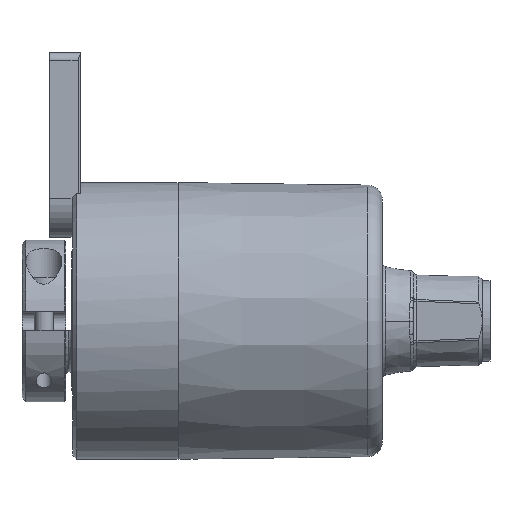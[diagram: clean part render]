
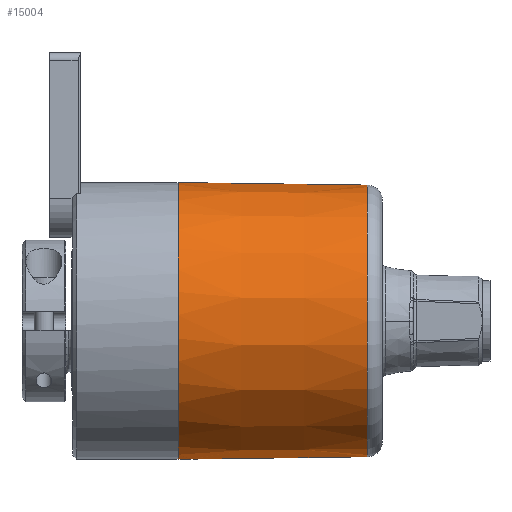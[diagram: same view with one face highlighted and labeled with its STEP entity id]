
A CAD part, front view. The second image highlights one B-rep face of the part: STEP entity #15004.
In plain terms, the highlighted conical face has half-angle 0.75 degrees and reference radius 18 mm.
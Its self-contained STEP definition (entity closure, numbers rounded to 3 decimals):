
#14418 = VERTEX_POINT ( 'NONE', #22575 ) ;
#14421 = VERTEX_POINT ( 'NONE', #22569 ) ;
#14727 = EDGE_CURVE ( 'NONE', #14418, #14889, #23165, .T. ) ;
#14813 = VERTEX_POINT ( 'NONE', #23261 ) ;
#14815 = EDGE_CURVE ( 'NONE', #14421, #14813, #23260, .T. ) ;
#14889 = VERTEX_POINT ( 'NONE', #23594 ) ;
#15004 = ADVANCED_FACE ( 'NONE', ( #23730 ), #23794, .T. ) ;
#15005 = EDGE_LOOP ( 'NONE', ( #15166, #15165, #15168, #15164, #15172, #15169, #15160, #15159 ) ) ;
#15154 = EDGE_CURVE ( 'NONE', #15171, #15156, #24099, .T. ) ;
#15156 = VERTEX_POINT ( 'NONE', #24101 ) ;
#15159 = ORIENTED_EDGE ( 'NONE', *, *, #15161, .T. ) ;
#15160 = ORIENTED_EDGE ( 'NONE', *, *, #15154, .T. ) ;
#15161 = EDGE_CURVE ( 'NONE', #15156, #14889, #24183, .T. ) ;
#15162 = EDGE_CURVE ( 'NONE', #14813, #15163, #24184, .T. ) ;
#15163 = VERTEX_POINT ( 'NONE', #24178 ) ;
#15164 = ORIENTED_EDGE ( 'NONE', *, *, #15162, .T. ) ;
#15165 = ORIENTED_EDGE ( 'NONE', *, *, #15167, .T. ) ;
#15166 = ORIENTED_EDGE ( 'NONE', *, *, #14727, .F. ) ;
#15167 = EDGE_CURVE ( 'NONE', #14418, #14421, #24206, .T. ) ;
#15168 = ORIENTED_EDGE ( 'NONE', *, *, #14815, .T. ) ;
#15169 = ORIENTED_EDGE ( 'NONE', *, *, #15170, .T. ) ;
#15170 = EDGE_CURVE ( 'NONE', #15178, #15171, #24201, .T. ) ;
#15171 = VERTEX_POINT ( 'NONE', #24200 ) ;
#15172 = ORIENTED_EDGE ( 'NONE', *, *, #15173, .T. ) ;
#15173 = EDGE_CURVE ( 'NONE', #15163, #15178, #24195, .T. ) ;
#15178 = VERTEX_POINT ( 'NONE', #24128 ) ;
#22569 = CARTESIAN_POINT ( 'NONE',  ( 38.326, -0.073, 17.677 ) ) ;
#22575 = CARTESIAN_POINT ( 'NONE',  ( 38.326, 0.073, -17.677 ) ) ;
#23162 = DIRECTION ( 'NONE',  ( -1., 0., -0.013 ) ) ;
#23163 = VECTOR ( 'NONE', #23162, 1000. ) ;
#23164 = CARTESIAN_POINT ( 'NONE',  ( 13.7, 0.074, -18. ) ) ;
#23165 = LINE ( 'NONE', #23164, #23163 ) ;
#23257 = DIRECTION ( 'NONE',  ( -1., 0., 0.013 ) ) ;
#23258 = VECTOR ( 'NONE', #23257, 1000. ) ;
#23259 = CARTESIAN_POINT ( 'NONE',  ( 13.7, -0.074, 18. ) ) ;
#23260 = LINE ( 'NONE', #23259, #23258 ) ;
#23261 = CARTESIAN_POINT ( 'NONE',  ( 13.7, -0.074, 18. ) ) ;
#23594 = CARTESIAN_POINT ( 'NONE',  ( 15.85, 0.074, -17.972 ) ) ;
#23730 = FACE_OUTER_BOUND ( 'NONE', #15005, .T. ) ;
#23762 = DIRECTION ( 'NONE',  ( 0., -0.004, 1. ) ) ;
#23763 = DIRECTION ( 'NONE',  ( -1., 0., 0. ) ) ;
#23792 = CARTESIAN_POINT ( 'NONE',  ( 13.7, 0., 0. ) ) ;
#23793 = AXIS2_PLACEMENT_3D ( 'NONE', #23792, #23763, #23762 ) ;
#23794 = CONICAL_SURFACE ( 'NONE', #23793, 18., 0.013 ) ;
#24099 =( BOUNDED_CURVE ( )  B_SPLINE_CURVE ( 3, ( #24193, #24192, #24191, #24190 ),
 .UNSPECIFIED., .F., .T. ) 
 B_SPLINE_CURVE_WITH_KNOTS ( ( 4, 4 ),
 ( 1.661, 1.663 ),
 .UNSPECIFIED. ) 
 CURVE ( )  GEOMETRIC_REPRESENTATION_ITEM ( )  RATIONAL_B_SPLINE_CURVE ( ( 1., 1., 1., 1. ) ) 
 REPRESENTATION_ITEM ( '' )  );
#24101 = CARTESIAN_POINT ( 'NONE',  ( 14.892, -0.972, -17.958 ) ) ;
#24128 = CARTESIAN_POINT ( 'NONE',  ( 14.171, -1.106, -17.96 ) ) ;
#24135 = CARTESIAN_POINT ( 'NONE',  ( 14.171, -1.106, -17.96 ) ) ;
#24136 = CARTESIAN_POINT ( 'NONE',  ( 14.014, -1.263, -17.952 ) ) ;
#24137 = CARTESIAN_POINT ( 'NONE',  ( 13.857, -1.42, -17.943 ) ) ;
#24138 = CARTESIAN_POINT ( 'NONE',  ( 13.7, -1.577, -17.931 ) ) ;
#24168 = CARTESIAN_POINT ( 'NONE',  ( 15.85, 0.074, -17.972 ) ) ;
#24169 = CARTESIAN_POINT ( 'NONE',  ( 15.85, -0.055, -17.972 ) ) ;
#24170 = CARTESIAN_POINT ( 'NONE',  ( 15.826, -0.186, -17.972 ) ) ;
#24171 = CARTESIAN_POINT ( 'NONE',  ( 15.732, -0.427, -17.969 ) ) ;
#24172 = CARTESIAN_POINT ( 'NONE',  ( 15.662, -0.54, -17.966 ) ) ;
#24173 = CARTESIAN_POINT ( 'NONE',  ( 15.487, -0.731, -17.962 ) ) ;
#24174 = CARTESIAN_POINT ( 'NONE',  ( 15.382, -0.81, -17.96 ) ) ;
#24175 = CARTESIAN_POINT ( 'NONE',  ( 15.148, -0.926, -17.957 ) ) ;
#24176 = CARTESIAN_POINT ( 'NONE',  ( 15.022, -0.961, -17.957 ) ) ;
#24177 = CARTESIAN_POINT ( 'NONE',  ( 14.892, -0.972, -17.958 ) ) ;
#24178 = CARTESIAN_POINT ( 'NONE',  ( 13.7, -1.577, -17.931 ) ) ;
#24179 = DIRECTION ( 'NONE',  ( 0., 0.004, -1. ) ) ;
#24180 = DIRECTION ( 'NONE',  ( 1., 0., 0. ) ) ;
#24181 = CARTESIAN_POINT ( 'NONE',  ( 13.7, 0., 0. ) ) ;
#24182 = AXIS2_PLACEMENT_3D ( 'NONE', #24181, #24180, #24179 ) ;
#24183 = B_SPLINE_CURVE_WITH_KNOTS ( 'NONE', 3,
 ( #24177, #24176, #24175, #24174, #24173, #24172, #24171, #24170, #24169, #24168 ),
 .UNSPECIFIED., .F., .F.,
 ( 4, 2, 2, 2, 4 ),
 ( 0., 0., 0.001, 0.001, 0.002 ),
 .UNSPECIFIED. ) ;
#24184 = CIRCLE ( 'NONE', #24182, 18. ) ;
#24190 = CARTESIAN_POINT ( 'NONE',  ( 14.892, -0.972, -17.958 ) ) ;
#24191 = CARTESIAN_POINT ( 'NONE',  ( 14.713, -0.988, -17.96 ) ) ;
#24192 = CARTESIAN_POINT ( 'NONE',  ( 14.535, -1.003, -17.961 ) ) ;
#24193 = CARTESIAN_POINT ( 'NONE',  ( 14.357, -1.019, -17.963 ) ) ;
#24195 =( BOUNDED_CURVE ( )  B_SPLINE_CURVE ( 3, ( #24138, #24137, #24136, #24135 ),
 .UNSPECIFIED., .F., .T. ) 
 B_SPLINE_CURVE_WITH_KNOTS ( ( 4, 4 ),
 ( 1.492, 1.518 ),
 .UNSPECIFIED. ) 
 CURVE ( )  GEOMETRIC_REPRESENTATION_ITEM ( )  RATIONAL_B_SPLINE_CURVE ( ( 1., 1., 1., 1. ) ) 
 REPRESENTATION_ITEM ( '' )  );
#24196 = CARTESIAN_POINT ( 'NONE',  ( 14.357, -1.019, -17.963 ) ) ;
#24197 = CARTESIAN_POINT ( 'NONE',  ( 14.286, -1.025, -17.963 ) ) ;
#24198 = CARTESIAN_POINT ( 'NONE',  ( 14.221, -1.056, -17.962 ) ) ;
#24199 = CARTESIAN_POINT ( 'NONE',  ( 14.171, -1.106, -17.96 ) ) ;
#24200 = CARTESIAN_POINT ( 'NONE',  ( 14.357, -1.019, -17.963 ) ) ;
#24201 = B_SPLINE_CURVE_WITH_KNOTS ( 'NONE', 3,
 ( #24199, #24198, #24197, #24196 ),
 .UNSPECIFIED., .F., .F.,
 ( 4, 4 ),
 ( 0., 0. ),
 .UNSPECIFIED. ) ;
#24202 = DIRECTION ( 'NONE',  ( 0., 0.004, -1. ) ) ;
#24203 = DIRECTION ( 'NONE',  ( -1., 0., 0. ) ) ;
#24204 = CARTESIAN_POINT ( 'NONE',  ( 38.326, 0., 0. ) ) ;
#24205 = AXIS2_PLACEMENT_3D ( 'NONE', #24204, #24203, #24202 ) ;
#24206 = CIRCLE ( 'NONE', #24205, 17.678 ) ;
